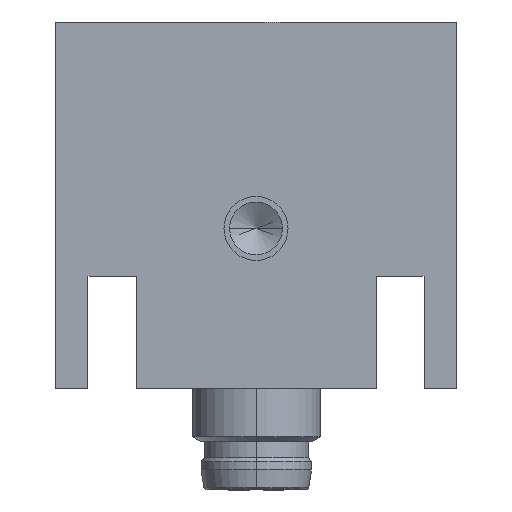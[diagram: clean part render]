
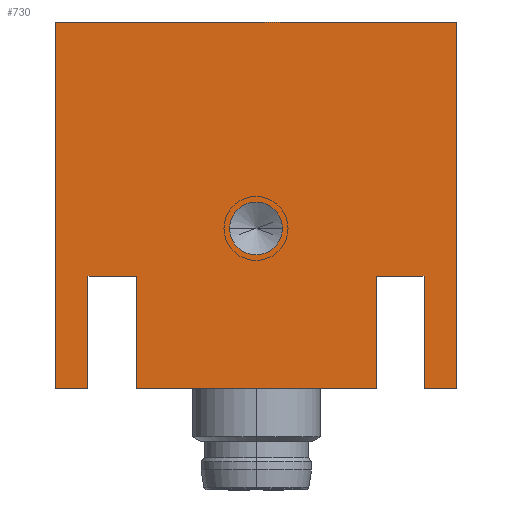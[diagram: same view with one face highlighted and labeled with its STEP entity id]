
A CAD part, left-side view. The second image highlights one B-rep face of the part: STEP entity #730.
In plain terms, the highlighted planar face has unit normal (-1, 0, 0).
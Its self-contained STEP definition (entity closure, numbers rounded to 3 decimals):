
#730=ADVANCED_FACE('48:1009',(#1532,#1533),#1534,.T.);
#1532=FACE_BOUND('',#2493,.T.);
#1533=FACE_OUTER_BOUND('',#2494,.T.);
#1534=PLANE('',#2495);
#2493=EDGE_LOOP('',(#3717,#3718));
#2494=EDGE_LOOP('',(#3719,#3720,#3721,#3722,#3723,#3724,#3725,#3726,#3727,#3728,#3729,#3730));
#2495=AXIS2_PLACEMENT_3D('',#3731,#3732,#3733);
#3717=ORIENTED_EDGE('',*,*,#5580,.T.);
#3718=ORIENTED_EDGE('',*,*,#5721,.T.);
#3719=ORIENTED_EDGE('',*,*,#5722,.F.);
#3720=ORIENTED_EDGE('',*,*,#5723,.F.);
#3721=ORIENTED_EDGE('',*,*,#5724,.T.);
#3722=ORIENTED_EDGE('',*,*,#5725,.T.);
#3723=ORIENTED_EDGE('',*,*,#5726,.F.);
#3724=ORIENTED_EDGE('',*,*,#5727,.F.);
#3725=ORIENTED_EDGE('',*,*,#5728,.F.);
#3726=ORIENTED_EDGE('',*,*,#5729,.F.);
#3727=ORIENTED_EDGE('',*,*,#5730,.F.);
#3728=ORIENTED_EDGE('',*,*,#5731,.F.);
#3729=ORIENTED_EDGE('',*,*,#5732,.F.);
#3730=ORIENTED_EDGE('',*,*,#5733,.F.);
#3731=CARTESIAN_POINT('',(-56.0,-12.0,0.));
#3732=DIRECTION('',(-1.0,-0.0,0.0));
#3733=DIRECTION('',(0.0,-1.0,-0.0));
#5580=EDGE_CURVE('48:1459',#6582,#6585,#6587,.T.);
#5721=EDGE_CURVE('48:1459',#6585,#6582,#6803,.T.);
#5722=EDGE_CURVE('48:1462',#6804,#6805,#6806,.F.);
#5723=EDGE_CURVE('48:1465',#6807,#6804,#6808,.T.);
#5724=EDGE_CURVE('48:1468',#6807,#6809,#6810,.T.);
#5725=EDGE_CURVE('48:1471',#6809,#6811,#6812,.T.);
#5726=EDGE_CURVE('48:1474',#6813,#6811,#6814,.T.);
#5727=EDGE_CURVE('48:1477',#6815,#6813,#6816,.T.);
#5728=EDGE_CURVE('48:1480',#6817,#6815,#6818,.F.);
#5729=EDGE_CURVE('48:1483',#6819,#6817,#6820,.T.);
#5730=EDGE_CURVE('48:1486',#6821,#6819,#6822,.F.);
#5731=EDGE_CURVE('48:1489',#6823,#6821,#6824,.T.);
#5732=EDGE_CURVE('48:1492',#6825,#6823,#6826,.F.);
#5733=EDGE_CURVE('48:1495',#6805,#6825,#6827,.T.);
#6582=VERTEX_POINT('',#7957);
#6585=VERTEX_POINT('',#7961);
#6587=CIRCLE('',#7964,1.65);
#6803=CIRCLE('',#8238,1.65);
#6804=VERTEX_POINT('',#8239);
#6805=VERTEX_POINT('',#8240);
#6806=LINE('',#8241,#8242);
#6807=VERTEX_POINT('',#8243);
#6808=LINE('',#8244,#8245);
#6809=VERTEX_POINT('',#8246);
#6810=LINE('',#8247,#8248);
#6811=VERTEX_POINT('',#8249);
#6812=LINE('',#8250,#8251);
#6813=VERTEX_POINT('',#8252);
#6814=LINE('',#8253,#8254);
#6815=VERTEX_POINT('',#8255);
#6816=LINE('',#8256,#8257);
#6817=VERTEX_POINT('',#8258);
#6818=LINE('',#8259,#8260);
#6819=VERTEX_POINT('',#8261);
#6820=LINE('',#8262,#8263);
#6821=VERTEX_POINT('',#8264);
#6822=LINE('',#8265,#8266);
#6823=VERTEX_POINT('',#8267);
#6824=LINE('',#8268,#8269);
#6825=VERTEX_POINT('',#8270);
#6826=LINE('',#8271,#8272);
#6827=LINE('',#8273,#8274);
#7957=CARTESIAN_POINT('',(-56.0,-10.35,-2.8));
#7961=CARTESIAN_POINT('',(-56.0,-13.65,-2.8));
#7964=AXIS2_PLACEMENT_3D('',#9583,#9584,#9585);
#8238=AXIS2_PLACEMENT_3D('',#9776,#9777,#9778);
#8239=CARTESIAN_POINT('',(-56.0,-22.5,-12.8));
#8240=CARTESIAN_POINT('',(-56.0,-22.5,-5.8));
#8241=CARTESIAN_POINT('',(-56.0,-22.5,-6.4));
#8242=VECTOR('',#9779,1.0);
#8243=CARTESIAN_POINT('',(-56.0,-24.5,-12.8));
#8244=CARTESIAN_POINT('',(-56.0,-6.0,-12.8));
#8245=VECTOR('',#9780,1.0);
#8246=CARTESIAN_POINT('',(-56.0,-24.5,10.1));
#8247=CARTESIAN_POINT('',(-56.0,-24.5,0.));
#8248=VECTOR('',#9781,1.0);
#8249=CARTESIAN_POINT('',(-56.0,0.5,10.1));
#8250=CARTESIAN_POINT('',(-56.0,-24.5,10.1));
#8251=VECTOR('',#9782,1.0);
#8252=CARTESIAN_POINT('',(-56.0,0.5,-12.8));
#8253=CARTESIAN_POINT('',(-56.0,0.5,7.1));
#8254=VECTOR('',#9783,1.0);
#8255=CARTESIAN_POINT('',(-56.0,-1.5,-12.8));
#8256=CARTESIAN_POINT('',(-56.0,-6.0,-12.8));
#8257=VECTOR('',#9784,1.0);
#8258=CARTESIAN_POINT('',(-56.0,-1.5,-5.8));
#8259=CARTESIAN_POINT('',(-56.0,-1.5,-6.4));
#8260=VECTOR('',#9785,1.0);
#8261=CARTESIAN_POINT('',(-56.0,-4.502,-5.8));
#8262=CARTESIAN_POINT('',(-56.0,-6.0,-5.8));
#8263=VECTOR('',#9786,1.0);
#8264=CARTESIAN_POINT('',(-56.0,-4.502,-12.8));
#8265=CARTESIAN_POINT('',(-56.0,-4.502,-6.4));
#8266=VECTOR('',#9787,1.0);
#8267=CARTESIAN_POINT('',(-56.0,-19.502,-12.8));
#8268=CARTESIAN_POINT('',(-56.0,-6.0,-12.8));
#8269=VECTOR('',#9788,1.0);
#8270=CARTESIAN_POINT('',(-56.0,-19.502,-5.8));
#8271=CARTESIAN_POINT('',(-56.0,-19.502,-6.4));
#8272=VECTOR('',#9789,1.0);
#8273=CARTESIAN_POINT('',(-56.0,-6.0,-5.8));
#8274=VECTOR('',#9790,1.0);
#9583=CARTESIAN_POINT('',(-56.0,-12.0,-2.8));
#9584=DIRECTION('',(1.0,0.0,0.0));
#9585=DIRECTION('',(0.0,1.0,0.0));
#9776=CARTESIAN_POINT('',(-56.0,-12.0,-2.8));
#9777=DIRECTION('',(1.0,0.0,0.0));
#9778=DIRECTION('',(0.0,1.0,0.0));
#9779=DIRECTION('',(0.0,0.0,-1.0));
#9780=DIRECTION('',(0.0,1.0,-0.0));
#9781=DIRECTION('',(0.0,0.0,1.0));
#9782=DIRECTION('',(0.0,1.0,0.0));
#9783=DIRECTION('',(0.0,0.0,1.0));
#9784=DIRECTION('',(0.0,1.0,-0.0));
#9785=DIRECTION('',(0.0,0.0,1.0));
#9786=DIRECTION('',(0.0,1.0,-0.0));
#9787=DIRECTION('',(0.0,0.0,-1.0));
#9788=DIRECTION('',(0.0,1.0,-0.0));
#9789=DIRECTION('',(0.0,0.0,1.0));
#9790=DIRECTION('',(0.0,1.0,-0.0));
